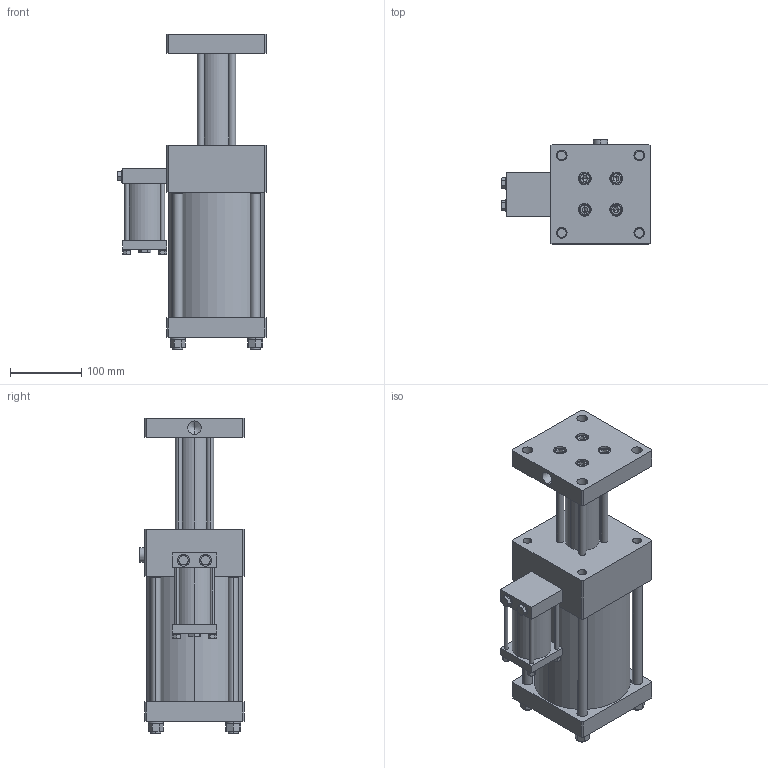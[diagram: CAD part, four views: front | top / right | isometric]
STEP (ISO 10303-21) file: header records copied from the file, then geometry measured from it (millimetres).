
FILE_DESCRIPTION (( 'STEP AP203' ), '1' );
FILE_NAME ('1320 100 050.STEP', '2016-02-22T09:16:33', ( 'Admin' ), ( '' ), 'SwSTEP 2.0', 'SolidWorks 2015', '' );
FILE_SCHEMA (( 'CONFIG_CONTROL_DESIGN' ));
Length unit declared in the file: millimetre
Products named in the file (10): spring lock washer 6735_is1_IS 6735- 10_1; socket head cap screw_is_IS 2269 - M10 x 16-N_1; spring lock washer 6735_is1_IS 6735- 14; hexagon nut_is_IS 1363-2 - M12-N; 1320_1320 100 050; 1320 100 050; spring lock washer 6735_is_IS 6735- 6; hexagon nut_is1_IS 1363-2 - M6-N; hhb(grade a)_is_IS 1364 HHB(Grade A) - M8 x 40 x 22-N_1; plain washer (type a)_is_IS 2016 A- 9_1
Assembly tree (30 placements, depth 2):
  1320 100 050
    1320_1320 100 050
    spring lock washer 6735_is_IS 6735- 6  x4
    hexagon nut_is1_IS 1363-2 - M6-N  x4
    hhb(grade a)_is_IS 1364 HHB(Grade A) - M8 x 40 x 22-N_1  x2
    plain washer (type a)_is_IS 2016 A- 9_1  x2
    spring lock washer 6735_is1_IS 6735- 10_1  x4
    socket head cap screw_is_IS 2269 - M10 x 16-N_1  x4
    spring lock washer 6735_is1_IS 6735- 14  x5
    hexagon nut_is_IS 1363-2 - M12-N  x4
Bounding box: 208.9 x 147 x 444 mm (x, y, z)
Volume: 5669828 mm3; surface area: 412984.1 mm2
Topology: 35 solids, 35 shells, 746 faces, 1724 edges, 1074 vertices
Faces by surface type: plane 289, cylinder 220, cone 182, bspline 47, torus 8
Entity records: 12406 total; most frequent: CARTESIAN_POINT 2411, DIRECTION 1837, ORIENTED_EDGE 1650, EDGE_CURVE 825, AXIS2_PLACEMENT_3D 731, VERTEX_POINT 531, EDGE_LOOP 442, VECTOR 375
